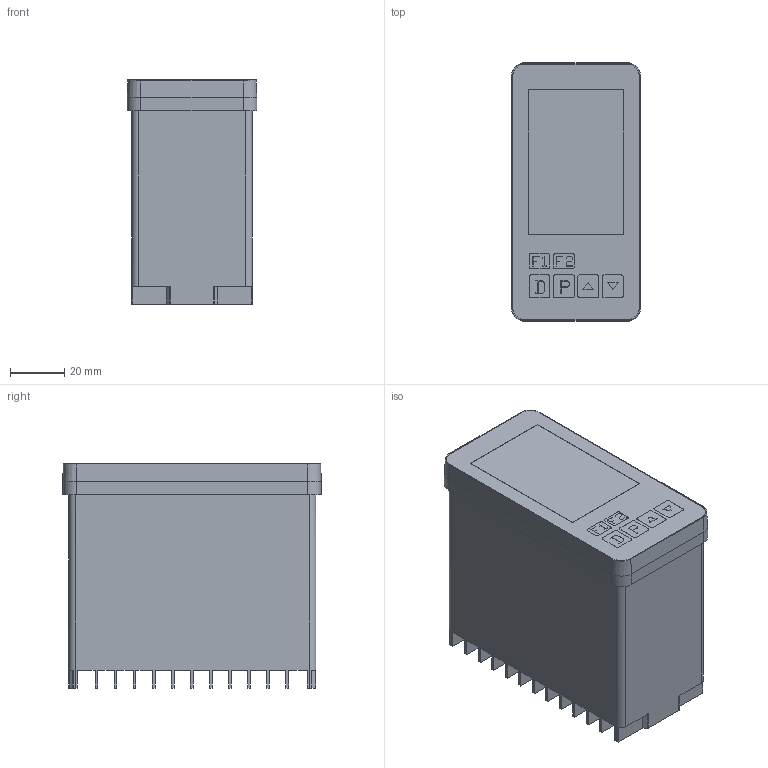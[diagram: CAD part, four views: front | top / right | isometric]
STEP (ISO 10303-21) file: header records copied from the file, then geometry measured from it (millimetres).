
FILE_DESCRIPTION (( 'STEP AP214' ), '1' );
FILE_NAME ('PXU 18.STEP', '2023-10-05T18:29:04', ( '' ), ( '' ), 'SwSTEP 2.0', 'SolidWorks 2022', '' );
FILE_SCHEMA (( 'AUTOMOTIVE_DESIGN' ));
Length unit declared in the file: inch
Products named in the file (1): PXU 18
Bounding box: 48.01 x 95.76 x 83.06 mm (x, y, z)
Volume: 320665.1 mm3; surface area: 53400.4 mm2
Topology: 3 solids, 3 shells, 348 faces, 966 edges, 644 vertices
Faces by surface type: plane 288, cylinder 32, bspline 24, cone 4
Entity records: 11302 total; most frequent: CARTESIAN_POINT 2271, ORIENTED_EDGE 1932, DIRECTION 1644, EDGE_CURVE 966, VECTOR 842, LINE 842, VERTEX_POINT 644, AXIS2_PLACEMENT_3D 401
